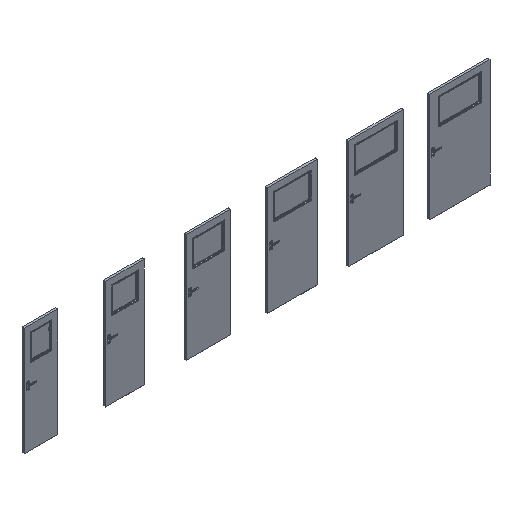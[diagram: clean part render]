
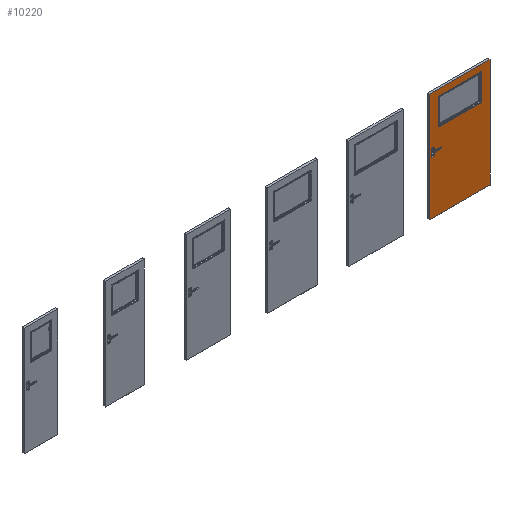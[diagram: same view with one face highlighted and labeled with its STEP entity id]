
A CAD part, isometric view. The second image highlights one B-rep face of the part: STEP entity #10220.
In plain terms, the highlighted planar face has unit normal (0, -1, 0).
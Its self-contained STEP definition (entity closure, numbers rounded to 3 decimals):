
#10220=ADVANCED_FACE('',(#17214,#17215),#14048,.F.);
#14048=PLANE('',#72005);
#16478=CIRCLE('',#72001,7.);
#16479=CIRCLE('',#72002,7.);
#16480=CIRCLE('',#72003,7.);
#16481=CIRCLE('',#72004,7.);
#17214=FACE_BOUND('',#17686,.T.);
#17215=FACE_BOUND('',#17687,.T.);
#17686=EDGE_LOOP('',(#22926,#22927,#22928,#22929,#22930,#22931,#22932,#22933));
#17687=EDGE_LOOP('',(#22934,#22935,#22936,#22937));
#22926=ORIENTED_EDGE('',*,*,#48690,.T.);
#22927=ORIENTED_EDGE('',*,*,#48691,.T.);
#22928=ORIENTED_EDGE('',*,*,#48692,.T.);
#22929=ORIENTED_EDGE('',*,*,#48693,.T.);
#22930=ORIENTED_EDGE('',*,*,#48694,.T.);
#22931=ORIENTED_EDGE('',*,*,#48695,.T.);
#22932=ORIENTED_EDGE('',*,*,#48696,.T.);
#22933=ORIENTED_EDGE('',*,*,#48697,.T.);
#22934=ORIENTED_EDGE('',*,*,#48698,.T.);
#22935=ORIENTED_EDGE('',*,*,#48699,.T.);
#22936=ORIENTED_EDGE('',*,*,#48700,.F.);
#22937=ORIENTED_EDGE('',*,*,#48701,.F.);
#41900=VERTEX_POINT('',#93093);
#41901=VERTEX_POINT('',#93094);
#41902=VERTEX_POINT('',#93096);
#41903=VERTEX_POINT('',#93098);
#41904=VERTEX_POINT('',#93100);
#41905=VERTEX_POINT('',#93102);
#41906=VERTEX_POINT('',#93104);
#41907=VERTEX_POINT('',#93106);
#41908=VERTEX_POINT('',#93109);
#41909=VERTEX_POINT('',#93110);
#41910=VERTEX_POINT('',#93112);
#41911=VERTEX_POINT('',#93114);
#48690=EDGE_CURVE('',#41900,#41901,#16478,.T.);
#48691=EDGE_CURVE('',#41901,#41902,#58394,.T.);
#48692=EDGE_CURVE('',#41902,#41903,#16479,.T.);
#48693=EDGE_CURVE('',#41903,#41904,#58395,.T.);
#48694=EDGE_CURVE('',#41904,#41905,#16480,.T.);
#48695=EDGE_CURVE('',#41905,#41906,#58396,.T.);
#48696=EDGE_CURVE('',#41906,#41907,#16481,.T.);
#48697=EDGE_CURVE('',#41907,#41900,#58397,.T.);
#48698=EDGE_CURVE('',#41908,#41909,#58398,.T.);
#48699=EDGE_CURVE('',#41909,#41910,#58399,.T.);
#48700=EDGE_CURVE('',#41911,#41910,#58400,.T.);
#48701=EDGE_CURVE('',#41908,#41911,#58401,.T.);
#58394=LINE('',#93095,#65168);
#58395=LINE('',#93099,#65169);
#58396=LINE('',#93103,#65170);
#58397=LINE('',#93107,#65171);
#58398=LINE('',#93108,#65172);
#58399=LINE('',#93111,#65173);
#58400=LINE('',#93113,#65174);
#58401=LINE('',#93115,#65175);
#65168=VECTOR('',#76677,1.);
#65169=VECTOR('',#76680,1.);
#65170=VECTOR('',#76683,1.);
#65171=VECTOR('',#76686,1.);
#65172=VECTOR('',#76687,1.);
#65173=VECTOR('',#76688,1.);
#65174=VECTOR('',#76689,1.);
#65175=VECTOR('',#76690,1.);
#72001=AXIS2_PLACEMENT_3D('',#93092,#76675,#76676);
#72002=AXIS2_PLACEMENT_3D('',#93097,#76678,#76679);
#72003=AXIS2_PLACEMENT_3D('',#93101,#76681,#76682);
#72004=AXIS2_PLACEMENT_3D('',#93105,#76684,#76685);
#72005=AXIS2_PLACEMENT_3D('',#93116,#76691,#76692);
#76675=DIRECTION('',(0.,1.,0.));
#76676=DIRECTION('',(1.,0.,0.));
#76677=DIRECTION('',(1.,0.,0.));
#76678=DIRECTION('',(0.,1.,0.));
#76679=DIRECTION('',(-1.,0.,0.));
#76680=DIRECTION('',(0.,0.,-1.));
#76681=DIRECTION('',(0.,1.,0.));
#76682=DIRECTION('',(-1.,0.,0.));
#76683=DIRECTION('',(-1.,0.,0.));
#76684=DIRECTION('',(0.,1.,0.));
#76685=DIRECTION('',(1.,0.,0.));
#76686=DIRECTION('',(0.,0.,1.));
#76687=DIRECTION('',(0.,0.,-1.));
#76688=DIRECTION('',(1.,0.,0.));
#76689=DIRECTION('',(0.,0.,-1.));
#76690=DIRECTION('',(1.,0.,0.));
#76691=DIRECTION('',(0.,1.,0.));
#76692=DIRECTION('',(-1.,0.,0.));
#93092=CARTESIAN_POINT('',(7367.95,-39.3,1890.05));
#93093=CARTESIAN_POINT('',(7363.,-39.3,1885.101));
#93094=CARTESIAN_POINT('',(7372.899,-39.3,1895.));
#93095=CARTESIAN_POINT('',(7322.899,-39.3,1895.));
#93096=CARTESIAN_POINT('',(8127.101,-39.3,1895.));
#93097=CARTESIAN_POINT('',(8132.05,-39.3,1890.05));
#93098=CARTESIAN_POINT('',(8137.,-39.3,1885.101));
#93099=CARTESIAN_POINT('',(8137.,-39.3,1885.101));
#93100=CARTESIAN_POINT('',(8137.,-39.3,1426.899));
#93101=CARTESIAN_POINT('',(8132.05,-39.3,1421.95));
#93102=CARTESIAN_POINT('',(8127.101,-39.3,1417.));
#93103=CARTESIAN_POINT('',(7677.101,-39.3,1417.));
#93104=CARTESIAN_POINT('',(7372.899,-39.3,1417.));
#93105=CARTESIAN_POINT('',(7367.95,-39.3,1421.95));
#93106=CARTESIAN_POINT('',(7363.,-39.3,1426.899));
#93107=CARTESIAN_POINT('',(7363.,-39.3,1426.899));
#93108=CARTESIAN_POINT('',(7191.,-39.3,2017.));
#93109=CARTESIAN_POINT('',(7191.,-39.3,2017.));
#93110=CARTESIAN_POINT('',(7191.,-39.3,2.));
#93111=CARTESIAN_POINT('',(7191.,-39.3,2.));
#93112=CARTESIAN_POINT('',(8309.,-39.3,2.));
#93113=CARTESIAN_POINT('',(8309.,-39.3,2017.));
#93114=CARTESIAN_POINT('',(8309.,-39.3,2017.));
#93115=CARTESIAN_POINT('',(7191.,-39.3,2017.));
#93116=CARTESIAN_POINT('',(7191.,-39.3,2017.));
